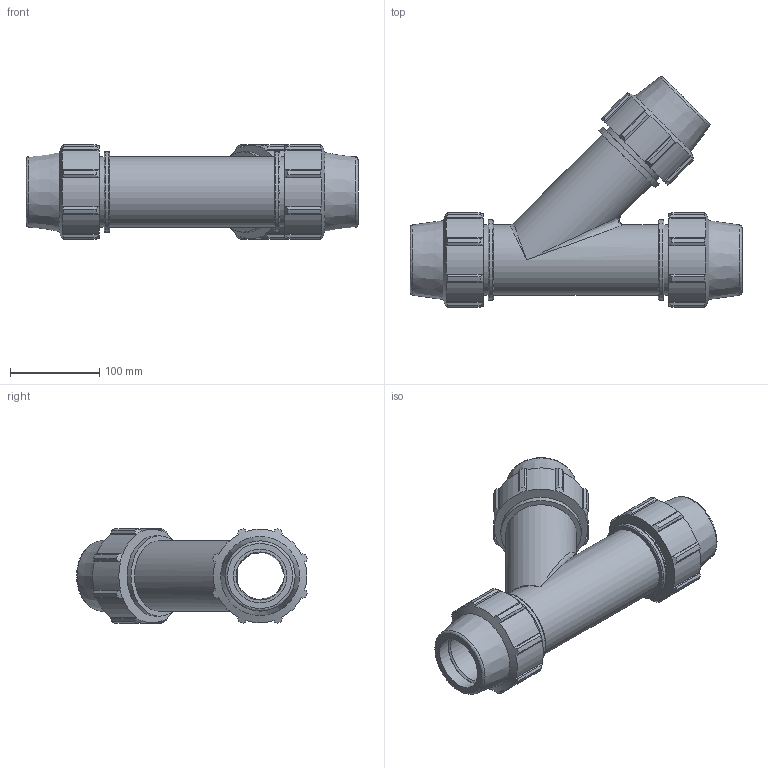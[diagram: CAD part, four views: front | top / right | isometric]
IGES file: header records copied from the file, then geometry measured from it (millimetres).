
Global section: file name: 0764M0020.ipt; native system: Autodesk Inventor 2019; preprocessor: unknown; author: Кирилл,,11,0; organization: 20170224.180708; date: 20210826.124859; units: inch
Bounding box: 372.87 x 259.21 x 106.35 mm (x, y, z)
Volume: 1906609.1 mm3; surface area: 294445.2 mm2
Topology: 1 solids, 1 shells, 219 faces, 627 edges, 421 vertices
Faces by surface type: plane 114, cylinder 56, cone 30, revolution 17, bspline 2
Full cylindrical faces by diameter (mm): 79.121 x5, 90.424 x3
